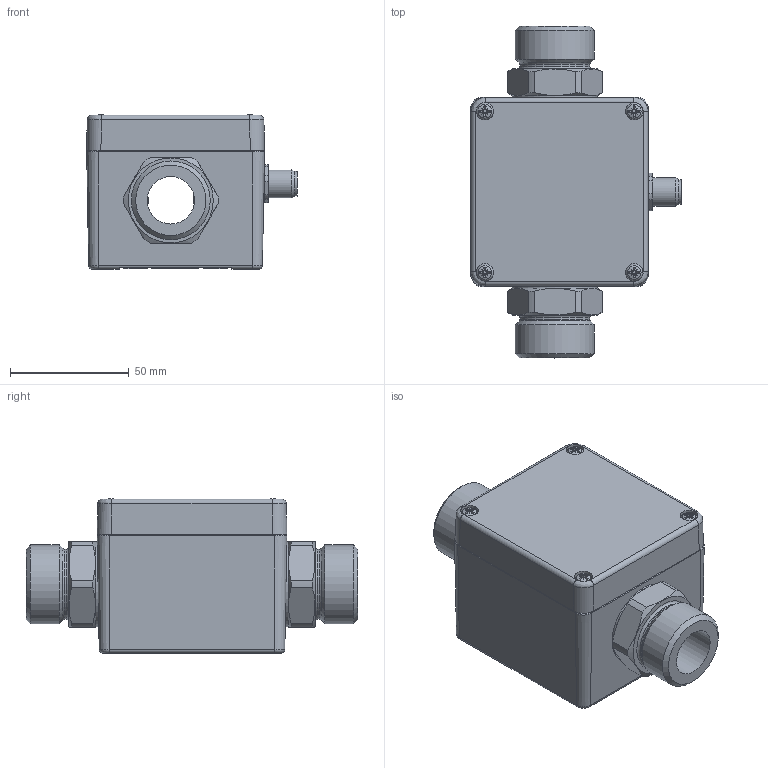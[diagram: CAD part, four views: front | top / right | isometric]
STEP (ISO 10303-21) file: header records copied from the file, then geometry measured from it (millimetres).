
FILE_DESCRIPTION(/* description */ (''),/* implementation_level */ '2;1');
FILE_NAME(/* name */ 'C:\Users\Kuelper\Desktop\VMI20ASS00YGX000.stp',/* time_stamp */ '2018-04-12T07:38:25+02:00',/* author */ ('Kuelper'),/* organization */ (''),/* preprocessor_version */ 'ST-DEVELOPER v15.2',/* originating_system */ 'Autodesk Inventor 2014',/* authorisation */ '');
FILE_SCHEMA (('AUTOMOTIVE_DESIGN { 1 0 10303 214 3 1 1 }'));
Products named in the file (1): Durchflusssensor_VMI20-Y_MID-0460_00292819
Bounding box: 88.88 x 140 x 65.04 mm (x, y, z)
Volume: 2637.6 mm3; surface area: 129836 mm2
Topology: 47 solids, 54 shells, 2940 faces, 7545 edges, 4884 vertices
Faces by surface type: plane 1633, bspline 525, cylinder 449, cone 198, torus 119, sphere 16
Full cylindrical faces by diameter (mm): 0.42 x10, 0.8 x5, 1 x17, 1.1 x2, 1.2 x1, 1.4 x5, 1.6 x2, 1.7 x2, 1.8 x4, 2 x10, 2.25 x4, 2.8 x1, 3 x6, 3.242 x11, 3.3 x6, 3.5 x4, 4 x6, 4.2 x2, 4.6 x4, 5.2 x1, 5.3 x1, 7 x2, 7.2 x4, 7.4 x4, 7.5 x2, 8.3 x1, 10.1 x1, 10.5 x1, 12 x2, 12.3 x1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
Entity records: 108560 total; most frequent: CARTESIAN_POINT 39163, ORIENTED_EDGE 14256, DIRECTION 12127, EDGE_CURVE 7104, VERTEX_POINT 4772, LINE 4297, VECTOR 4297, AXIS2_PLACEMENT_3D 3915
